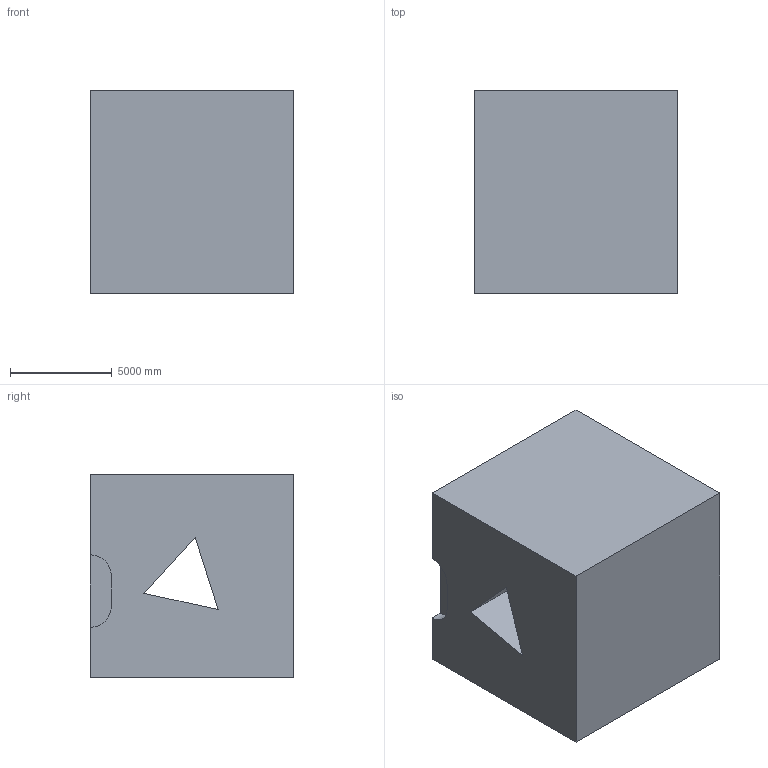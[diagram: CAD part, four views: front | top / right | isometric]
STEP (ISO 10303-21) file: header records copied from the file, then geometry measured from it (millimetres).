
FILE_DESCRIPTION (( 'STEP AP203' ), '1' );
FILE_NAME ('115.STEP', '2022-09-05T15:34:57', ( 'user' ), ( '' ), 'SwSTEP 2.0', 'SolidWorks 2021', '' );
FILE_SCHEMA (( 'CONFIG_CONTROL_DESIGN' ));
Length unit declared in the file: centimetre
Products named in the file (1): 115
Bounding box: 10000 x 10000 x 10000 mm (x, y, z)
Volume: 937546830293.4 mm3; surface area: 700815305.4 mm2
Topology: 1 solids, 1 shells, 13 faces, 33 edges, 22 vertices
Faces by surface type: plane 11, cylinder 2
Entity records: 472 total; most frequent: CARTESIAN_POINT 69, ORIENTED_EDGE 66, DIRECTION 65, EDGE_CURVE 33, VECTOR 29, LINE 29, VERTEX_POINT 22, AXIS2_PLACEMENT_3D 18
